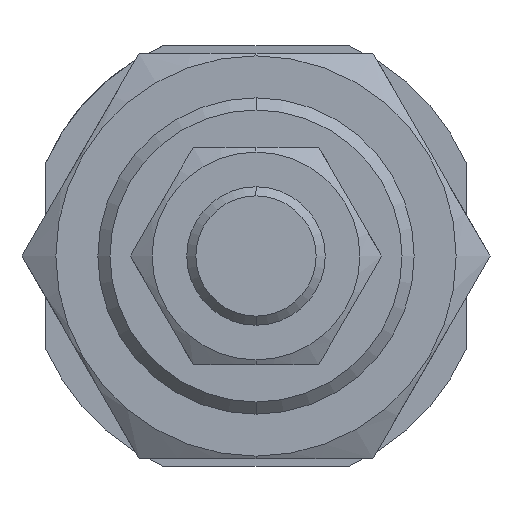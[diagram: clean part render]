
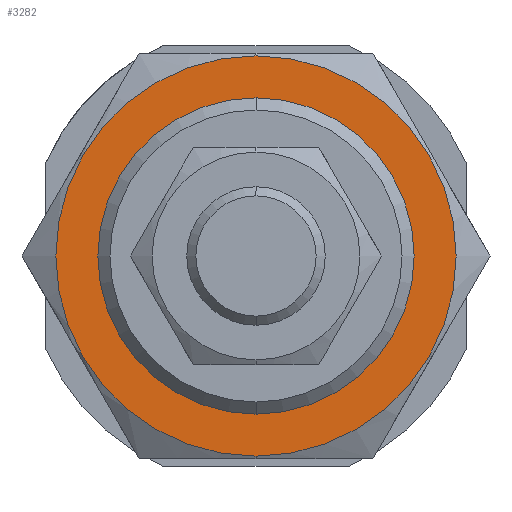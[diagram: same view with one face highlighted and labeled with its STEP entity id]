
A CAD part, left-side view. The second image highlights one B-rep face of the part: STEP entity #3282.
In plain terms, the highlighted planar face has unit normal (-1, 0, 0).
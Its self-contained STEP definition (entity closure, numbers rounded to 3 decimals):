
#80 = CARTESIAN_POINT ( 'NONE',  ( -13., 0., 20.25 ) ) ;
#151 = ORIENTED_EDGE ( 'NONE', *, *, #231, .F. ) ;
#231 = EDGE_CURVE ( 'NONE', #296, #2384, #5468, .T. ) ;
#296 = VERTEX_POINT ( 'NONE', #80 ) ;
#555 = ORIENTED_EDGE ( 'NONE', *, *, #1683, .T. ) ;
#627 = CIRCLE ( 'NONE', #4614, 16. ) ;
#633 = CARTESIAN_POINT ( 'NONE',  ( -13., 0., 0. ) ) ;
#652 = CARTESIAN_POINT ( 'NONE',  ( -13., 0., 0. ) ) ;
#814 = CIRCLE ( 'NONE', #5071, 16. ) ;
#859 = DIRECTION ( 'NONE',  ( 0., 0., -1. ) ) ;
#1053 = EDGE_LOOP ( 'NONE', ( #2872, #151 ) ) ;
#1054 = AXIS2_PLACEMENT_3D ( 'NONE', #3119, #4832, #859 ) ;
#1057 = CARTESIAN_POINT ( 'NONE',  ( -13., 0., -16. ) ) ;
#1470 = ORIENTED_EDGE ( 'NONE', *, *, #2059, .T. ) ;
#1683 = EDGE_CURVE ( 'NONE', #3722, #4171, #814, .T. ) ;
#1841 = FACE_BOUND ( 'NONE', #5196, .T. ) ;
#1870 = CARTESIAN_POINT ( 'NONE',  ( -13., 0., 0. ) ) ;
#2059 = EDGE_CURVE ( 'NONE', #4171, #3722, #627, .T. ) ;
#2233 = DIRECTION ( 'NONE',  ( 0., 0., -1. ) ) ;
#2384 = VERTEX_POINT ( 'NONE', #5679 ) ;
#2453 = DIRECTION ( 'NONE',  ( 1., 0., 0. ) ) ;
#2541 = CIRCLE ( 'NONE', #1054, 20.25 ) ;
#2872 = ORIENTED_EDGE ( 'NONE', *, *, #3603, .F. ) ;
#2970 = AXIS2_PLACEMENT_3D ( 'NONE', #4409, #4493, #2233 ) ;
#3119 = CARTESIAN_POINT ( 'NONE',  ( -13., 0., 0. ) ) ;
#3282 = ADVANCED_FACE ( 'NONE', ( #4146, #1841 ), #5504, .F. ) ;
#3603 = EDGE_CURVE ( 'NONE', #2384, #296, #2541, .T. ) ;
#3622 = DIRECTION ( 'NONE',  ( 0., 1., 0. ) ) ;
#3722 = VERTEX_POINT ( 'NONE', #1057 ) ;
#3762 = DIRECTION ( 'NONE',  ( 0., 0., -1. ) ) ;
#4114 = DIRECTION ( 'NONE',  ( 1., 0., 0. ) ) ;
#4146 = FACE_OUTER_BOUND ( 'NONE', #1053, .T. ) ;
#4171 = VERTEX_POINT ( 'NONE', #4298 ) ;
#4209 = AXIS2_PLACEMENT_3D ( 'NONE', #1870, #4114, #3622 ) ;
#4298 = CARTESIAN_POINT ( 'NONE',  ( -13., 0., 16. ) ) ;
#4409 = CARTESIAN_POINT ( 'NONE',  ( -13., 0., 0. ) ) ;
#4493 = DIRECTION ( 'NONE',  ( 1., 0., 0. ) ) ;
#4614 = AXIS2_PLACEMENT_3D ( 'NONE', #652, #2453, #3762 ) ;
#4660 = DIRECTION ( 'NONE',  ( 1., 0., 0. ) ) ;
#4832 = DIRECTION ( 'NONE',  ( 1., 0., 0. ) ) ;
#5071 = AXIS2_PLACEMENT_3D ( 'NONE', #633, #4660, #5124 ) ;
#5124 = DIRECTION ( 'NONE',  ( 0., 0., -1. ) ) ;
#5196 = EDGE_LOOP ( 'NONE', ( #1470, #555 ) ) ;
#5468 = CIRCLE ( 'NONE', #2970, 20.25 ) ;
#5504 = PLANE ( 'NONE',  #4209 ) ;
#5679 = CARTESIAN_POINT ( 'NONE',  ( -13., 0., -20.25 ) ) ;
